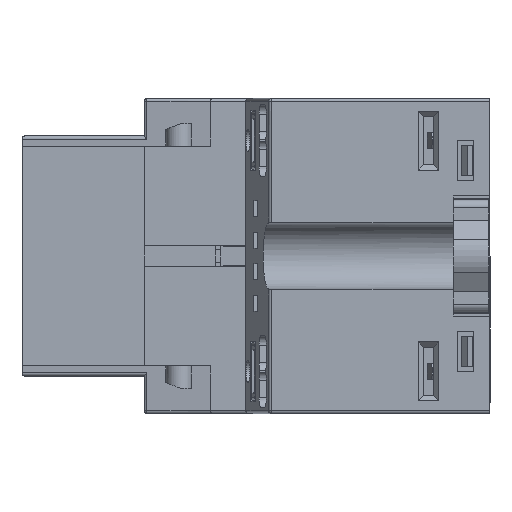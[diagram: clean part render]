
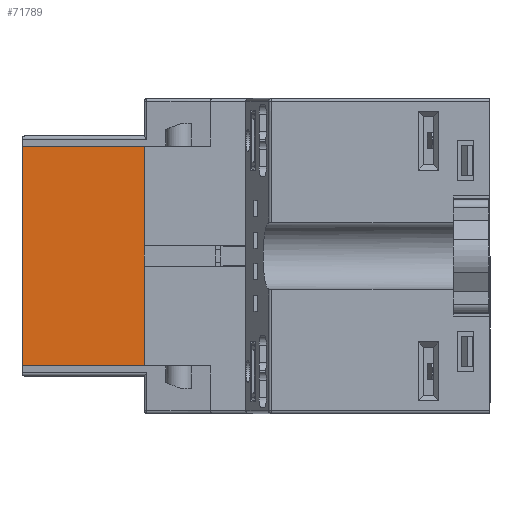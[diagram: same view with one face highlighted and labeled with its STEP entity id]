
A CAD part, left-side view. The second image highlights one B-rep face of the part: STEP entity #71789.
In plain terms, the highlighted planar face has unit normal (-1, 0, 0).
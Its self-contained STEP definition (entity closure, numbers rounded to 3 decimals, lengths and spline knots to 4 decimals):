
#6230=FACE_OUTER_BOUND('',#10050,.T.);
#10050=EDGE_LOOP('',(#61583,#61584,#61585,#61586));
#18254=LINE('',#115812,#26423);
#18269=LINE('',#115830,#26438);
#18271=LINE('',#115833,#26440);
#18272=LINE('',#115835,#26441);
#26423=VECTOR('',#94847,2.16);
#26438=VECTOR('',#94864,2.16);
#26440=VECTOR('',#94868,1.2);
#26441=VECTOR('',#94871,1.2);
#32629=VERTEX_POINT('',#115809);
#32630=VERTEX_POINT('',#115811);
#32631=VERTEX_POINT('',#115827);
#32632=VERTEX_POINT('',#115829);
#42349=EDGE_CURVE('',#32629,#32630,#18254,.T.);
#42364=EDGE_CURVE('',#32631,#32632,#18269,.T.);
#42366=EDGE_CURVE('',#32630,#32631,#18271,.T.);
#42367=EDGE_CURVE('',#32629,#32632,#18272,.T.);
#61583=ORIENTED_EDGE('',*,*,#42349,.F.);
#61584=ORIENTED_EDGE('',*,*,#42367,.T.);
#61585=ORIENTED_EDGE('',*,*,#42364,.F.);
#61586=ORIENTED_EDGE('',*,*,#42366,.F.);
#64579=PLANE('',#76788);
#71789=ADVANCED_FACE('',(#6230),#64579,.T.);
#76788=AXIS2_PLACEMENT_3D('',#115836,#94872,#94873);
#94847=DIRECTION('',(0.,0.,-1.));
#94864=DIRECTION('',(0.,0.,1.));
#94868=DIRECTION('',(0.,1.,0.));
#94871=DIRECTION('',(0.,1.,0.));
#94872=DIRECTION('center_axis',(-1.,0.,0.));
#94873=DIRECTION('ref_axis',(0.,0.,1.));
#115809=CARTESIAN_POINT('',(5.7075,3.4,1.08));
#115811=CARTESIAN_POINT('',(5.7075,3.4,-1.08));
#115812=CARTESIAN_POINT('',(5.7075,3.4,-0.54));
#115827=CARTESIAN_POINT('',(5.7075,4.6,-1.08));
#115829=CARTESIAN_POINT('',(5.7075,4.6,1.08));
#115830=CARTESIAN_POINT('',(5.7075,4.6,1.08));
#115833=CARTESIAN_POINT('',(5.7075,3.4,-1.08));
#115835=CARTESIAN_POINT('',(5.7075,3.4,1.08));
#115836=CARTESIAN_POINT('Origin',(5.7075,3.4,-1.08));
